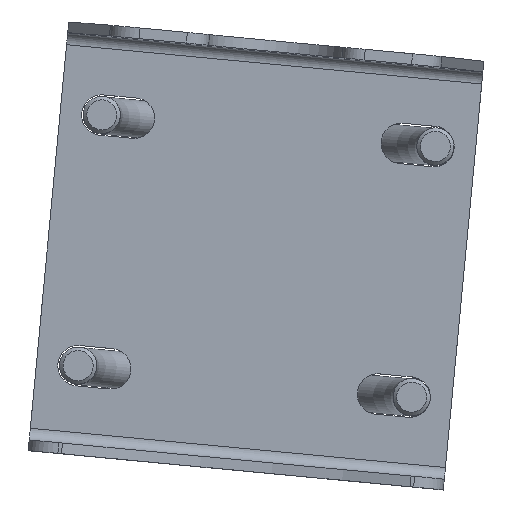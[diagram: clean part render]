
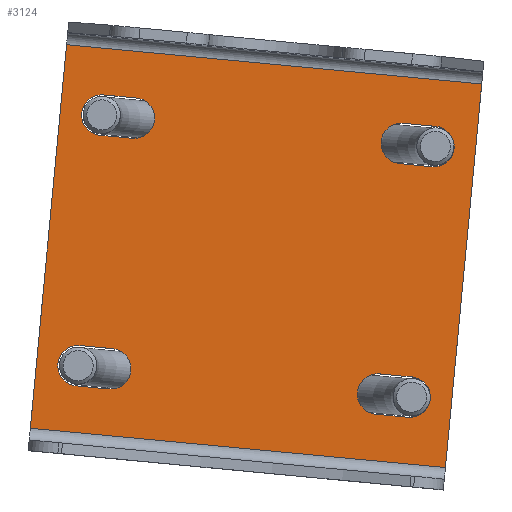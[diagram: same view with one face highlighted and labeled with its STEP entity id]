
A CAD part, top view. The second image highlights one B-rep face of the part: STEP entity #3124.
In plain terms, the highlighted planar face has unit normal (0, 0, 1).
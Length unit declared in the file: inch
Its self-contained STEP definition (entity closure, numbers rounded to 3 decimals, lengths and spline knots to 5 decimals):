
#41=FACE_BOUND('',#1014,.T.);
#42=FACE_BOUND('',#1015,.T.);
#43=FACE_BOUND('',#1016,.T.);
#44=FACE_BOUND('',#1017,.T.);
#110=PLANE('',#3466);
#411=LINE('',#5212,#667);
#417=LINE('',#5224,#673);
#418=LINE('',#5226,#674);
#419=LINE('',#5227,#675);
#420=LINE('',#5229,#676);
#421=LINE('',#5231,#677);
#422=LINE('',#5234,#678);
#423=LINE('',#5237,#679);
#424=LINE('',#5239,#680);
#425=LINE('',#5242,#681);
#426=LINE('',#5244,#682);
#427=LINE('',#5246,#683);
#667=VECTOR('',#4294,39.37008);
#673=VECTOR('',#4302,39.37008);
#674=VECTOR('',#4305,39.37008);
#675=VECTOR('',#4306,39.37008);
#676=VECTOR('',#4307,39.37008);
#677=VECTOR('',#4308,39.37008);
#678=VECTOR('',#4311,39.37008);
#679=VECTOR('',#4314,39.37008);
#680=VECTOR('',#4315,39.37008);
#681=VECTOR('',#4318,39.37008);
#682=VECTOR('',#4319,39.37008);
#683=VECTOR('',#4320,39.37008);
#833=FACE_OUTER_BOUND('',#1013,.T.);
#1013=EDGE_LOOP('',(#2676,#2677,#2678,#2679));
#1014=EDGE_LOOP('',(#2680,#2681,#2682,#2683));
#1015=EDGE_LOOP('',(#2684,#2685,#2686,#2687));
#1016=EDGE_LOOP('',(#2688,#2689,#2690,#2691));
#1017=EDGE_LOOP('',(#2692,#2693,#2694,#2695));
#1174=CIRCLE('',#3396,0.17);
#1176=CIRCLE('',#3399,0.17);
#1178=CIRCLE('',#3402,0.17);
#1180=CIRCLE('',#3405,0.17);
#1222=CIRCLE('',#3467,0.17);
#1223=CIRCLE('',#3468,0.17);
#1224=CIRCLE('',#3469,0.17);
#1225=CIRCLE('',#3470,0.17);
#1426=VERTEX_POINT('',#5001);
#1427=VERTEX_POINT('',#5002);
#1430=VERTEX_POINT('',#5010);
#1431=VERTEX_POINT('',#5011);
#1434=VERTEX_POINT('',#5019);
#1435=VERTEX_POINT('',#5020);
#1438=VERTEX_POINT('',#5028);
#1439=VERTEX_POINT('',#5029);
#1510=VERTEX_POINT('',#5208);
#1512=VERTEX_POINT('',#5211);
#1514=VERTEX_POINT('',#5217);
#1517=VERTEX_POINT('',#5222);
#1518=VERTEX_POINT('',#5228);
#1519=VERTEX_POINT('',#5230);
#1520=VERTEX_POINT('',#5233);
#1521=VERTEX_POINT('',#5235);
#1522=VERTEX_POINT('',#5238);
#1523=VERTEX_POINT('',#5240);
#1524=VERTEX_POINT('',#5243);
#1525=VERTEX_POINT('',#5245);
#1808=EDGE_CURVE('',#1426,#1427,#1174,.T.);
#1812=EDGE_CURVE('',#1430,#1431,#1176,.T.);
#1816=EDGE_CURVE('',#1434,#1435,#1178,.T.);
#1820=EDGE_CURVE('',#1438,#1439,#1180,.T.);
#1911=EDGE_CURVE('',#1512,#1510,#411,.T.);
#1917=EDGE_CURVE('',#1514,#1517,#417,.T.);
#1918=EDGE_CURVE('',#1514,#1510,#418,.T.);
#1919=EDGE_CURVE('',#1512,#1517,#419,.T.);
#1920=EDGE_CURVE('',#1518,#1426,#420,.T.);
#1921=EDGE_CURVE('',#1427,#1519,#421,.T.);
#1922=EDGE_CURVE('',#1519,#1518,#1222,.T.);
#1923=EDGE_CURVE('',#1431,#1520,#422,.T.);
#1924=EDGE_CURVE('',#1520,#1521,#1223,.T.);
#1925=EDGE_CURVE('',#1521,#1430,#423,.T.);
#1926=EDGE_CURVE('',#1435,#1522,#424,.T.);
#1927=EDGE_CURVE('',#1522,#1523,#1224,.T.);
#1928=EDGE_CURVE('',#1523,#1434,#425,.T.);
#1929=EDGE_CURVE('',#1524,#1438,#426,.T.);
#1930=EDGE_CURVE('',#1439,#1525,#427,.T.);
#1931=EDGE_CURVE('',#1525,#1524,#1225,.T.);
#2676=ORIENTED_EDGE('',*,*,#1911,.T.);
#2677=ORIENTED_EDGE('',*,*,#1918,.F.);
#2678=ORIENTED_EDGE('',*,*,#1917,.T.);
#2679=ORIENTED_EDGE('',*,*,#1919,.F.);
#2680=ORIENTED_EDGE('',*,*,#1920,.T.);
#2681=ORIENTED_EDGE('',*,*,#1808,.T.);
#2682=ORIENTED_EDGE('',*,*,#1921,.T.);
#2683=ORIENTED_EDGE('',*,*,#1922,.T.);
#2684=ORIENTED_EDGE('',*,*,#1923,.T.);
#2685=ORIENTED_EDGE('',*,*,#1924,.T.);
#2686=ORIENTED_EDGE('',*,*,#1925,.T.);
#2687=ORIENTED_EDGE('',*,*,#1812,.T.);
#2688=ORIENTED_EDGE('',*,*,#1926,.T.);
#2689=ORIENTED_EDGE('',*,*,#1927,.T.);
#2690=ORIENTED_EDGE('',*,*,#1928,.T.);
#2691=ORIENTED_EDGE('',*,*,#1816,.T.);
#2692=ORIENTED_EDGE('',*,*,#1929,.T.);
#2693=ORIENTED_EDGE('',*,*,#1820,.T.);
#2694=ORIENTED_EDGE('',*,*,#1930,.T.);
#2695=ORIENTED_EDGE('',*,*,#1931,.T.);
#3124=ADVANCED_FACE('',(#833,#41,#42,#43,#44),#110,.T.);
#3396=AXIS2_PLACEMENT_3D('',#5003,#4101,#4102);
#3399=AXIS2_PLACEMENT_3D('',#5012,#4109,#4110);
#3402=AXIS2_PLACEMENT_3D('',#5021,#4117,#4118);
#3405=AXIS2_PLACEMENT_3D('',#5030,#4125,#4126);
#3466=AXIS2_PLACEMENT_3D('',#5225,#4303,#4304);
#3467=AXIS2_PLACEMENT_3D('',#5232,#4309,#4310);
#3468=AXIS2_PLACEMENT_3D('',#5236,#4312,#4313);
#3469=AXIS2_PLACEMENT_3D('',#5241,#4316,#4317);
#3470=AXIS2_PLACEMENT_3D('',#5247,#4321,#4322);
#4101=DIRECTION('center_axis',(0.,0.,
-1.));
#4102=DIRECTION('ref_axis',(0.996,-0.094,0.));
#4109=DIRECTION('center_axis',(0.,0.,
-1.));
#4110=DIRECTION('ref_axis',(0.996,-0.094,0.));
#4117=DIRECTION('center_axis',(0.,0.,
-1.));
#4118=DIRECTION('ref_axis',(0.996,-0.094,0.));
#4125=DIRECTION('center_axis',(0.,0.,
-1.));
#4126=DIRECTION('ref_axis',(0.996,-0.094,0.));
#4294=DIRECTION('',(-0.094,-0.996,0.));
#4302=DIRECTION('',(0.094,0.996,0.));
#4303=DIRECTION('center_axis',(0.,0.,
1.));
#4304=DIRECTION('ref_axis',(0.996,-0.094,0.));
#4305=DIRECTION('',(-0.996,0.094,0.));
#4306=DIRECTION('',(0.996,-0.094,0.));
#4307=DIRECTION('',(-0.996,0.094,0.));
#4308=DIRECTION('',(0.996,-0.094,0.));
#4309=DIRECTION('center_axis',(0.,0.,
-1.));
#4310=DIRECTION('ref_axis',(0.996,-0.094,0.));
#4311=DIRECTION('',(0.996,-0.094,0.));
#4312=DIRECTION('center_axis',(0.,0.,
-1.));
#4313=DIRECTION('ref_axis',(0.996,-0.094,0.));
#4314=DIRECTION('',(-0.996,0.094,0.));
#4315=DIRECTION('',(0.996,-0.094,0.));
#4316=DIRECTION('center_axis',(0.,0.,
-1.));
#4317=DIRECTION('ref_axis',(0.996,-0.094,0.));
#4318=DIRECTION('',(-0.996,0.094,0.));
#4319=DIRECTION('',(-0.996,0.094,0.));
#4320=DIRECTION('',(0.996,-0.094,0.));
#4321=DIRECTION('center_axis',(0.,0.,
-1.));
#4322=DIRECTION('ref_axis',(0.996,-0.094,0.));
#5001=CARTESIAN_POINT('',(-21.14802,-10.73015,12.59123));
#5002=CARTESIAN_POINT('',(-21.116,-10.39166,12.59123));
#5003=CARTESIAN_POINT('Origin',(-21.13201,-10.56091,12.59123));
#5010=CARTESIAN_POINT('',(-18.63425,-10.96797,12.59123));
#5011=CARTESIAN_POINT('',(-18.60222,-10.62948,12.59123));
#5012=CARTESIAN_POINT('Origin',(-18.61824,-10.79872,12.59123));
#5019=CARTESIAN_POINT('',(-18.43522,-8.86421,12.59123));
#5020=CARTESIAN_POINT('',(-18.4032,-8.52572,12.59123));
#5021=CARTESIAN_POINT('Origin',(-18.41921,-8.69497,12.59123));
#5028=CARTESIAN_POINT('',(-20.949,-8.62639,12.59123));
#5029=CARTESIAN_POINT('',(-20.91697,-8.28791,12.59123));
#5030=CARTESIAN_POINT('Origin',(-20.93299,-8.45715,12.59123));
#5208=CARTESIAN_POINT('',(-21.53323,-11.08575,12.59123));
#5211=CARTESIAN_POINT('',(-21.22866,-7.86638,12.59123));
#5212=CARTESIAN_POINT('',(-21.54265,-11.18531,12.59123));
#5217=CARTESIAN_POINT('',(-18.04879,-11.4154,12.59123));
#5222=CARTESIAN_POINT('',(-17.74422,-8.19602,12.59123));
#5224=CARTESIAN_POINT('',(-18.0582,-11.51495,12.59123));
#5225=CARTESIAN_POINT('Origin',(-21.21924,-7.76682,12.59123));
#5226=CARTESIAN_POINT('',(-18.04879,-11.4154,12.59123));
#5227=CARTESIAN_POINT('',(-21.22866,-7.86638,12.59123));
#5228=CARTESIAN_POINT('',(-20.87425,-10.75605,12.59123));
#5229=CARTESIAN_POINT('',(-21.14802,-10.73015,12.59123));
#5230=CARTESIAN_POINT('',(-20.84222,-10.41756,12.59123));
#5231=CARTESIAN_POINT('',(-20.84222,-10.41756,12.59123));
#5232=CARTESIAN_POINT('Origin',(-20.85823,-10.58681,12.59123));
#5233=CARTESIAN_POINT('',(-18.32845,-10.65538,12.59123));
#5234=CARTESIAN_POINT('',(-18.60222,-10.62948,12.59123));
#5235=CARTESIAN_POINT('',(-18.36047,-10.99387,12.59123));
#5236=CARTESIAN_POINT('Origin',(-18.34446,-10.82462,12.59123));
#5237=CARTESIAN_POINT('',(-18.36047,-10.99387,12.59123));
#5238=CARTESIAN_POINT('',(-18.12942,-8.55162,12.59123));
#5239=CARTESIAN_POINT('',(-18.4032,-8.52572,12.59123));
#5240=CARTESIAN_POINT('',(-18.16144,-8.89011,12.59123));
#5241=CARTESIAN_POINT('Origin',(-18.14543,-8.72087,12.59123));
#5242=CARTESIAN_POINT('',(-18.16144,-8.89011,12.59123));
#5243=CARTESIAN_POINT('',(-20.67522,-8.6523,12.59123));
#5244=CARTESIAN_POINT('',(-20.949,-8.62639,12.59123));
#5245=CARTESIAN_POINT('',(-20.6432,-8.31381,12.59123));
#5246=CARTESIAN_POINT('',(-20.6432,-8.31381,12.59123));
#5247=CARTESIAN_POINT('Origin',(-20.65921,-8.48305,12.59123));
